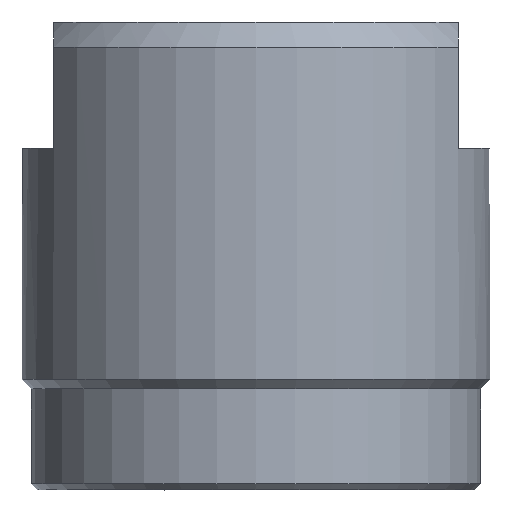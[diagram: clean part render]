
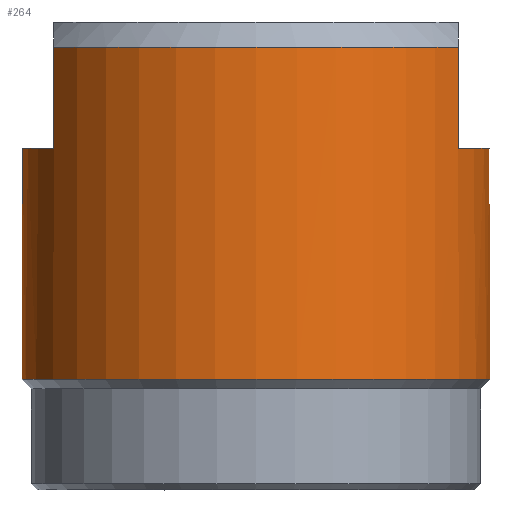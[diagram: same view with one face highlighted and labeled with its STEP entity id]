
A CAD part, left-side view. The second image highlights one B-rep face of the part: STEP entity #264.
In plain terms, the highlighted cylindrical face has radius 9.25 mm (diameter 18.5 mm), a full revolution.
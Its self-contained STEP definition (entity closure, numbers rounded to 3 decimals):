
#101 = CARTESIAN_POINT ( 'NONE',  ( 4.644, -8., 13.5 ) ) ;
#139 = CARTESIAN_POINT ( 'NONE',  ( -4.644, 8., 13.5 ) ) ;
#220 = CARTESIAN_POINT ( 'NONE',  ( -4.644, -8., 13.5 ) ) ;
#257 = CARTESIAN_POINT ( 'NONE',  ( -4.644, 8., 0. ) ) ;
#260 = DIRECTION ( 'NONE',  ( -1., 0., 0. ) ) ;
#264 = ADVANCED_FACE ( 'NONE', ( #321, #2046 ), #2009, .T. ) ;
#321 = FACE_OUTER_BOUND ( 'NONE', #2185, .T. ) ;
#394 = CARTESIAN_POINT ( 'NONE',  ( -4.644, -8., 17.5 ) ) ;
#400 = VERTEX_POINT ( 'NONE', #3163 ) ;
#416 = VERTEX_POINT ( 'NONE', #394 ) ;
#481 = EDGE_CURVE ( 'NONE', #416, #579, #1369, .T. ) ;
#493 = ORIENTED_EDGE ( 'NONE', *, *, #1754, .F. ) ;
#510 = DIRECTION ( 'NONE',  ( 0., 0., -1. ) ) ;
#526 = EDGE_CURVE ( 'NONE', #934, #416, #1989, .T. ) ;
#528 = DIRECTION ( 'NONE',  ( 0., 0., 1. ) ) ;
#579 = VERTEX_POINT ( 'NONE', #1005 ) ;
#592 = CARTESIAN_POINT ( 'NONE',  ( 4.644, 8., 13.5 ) ) ;
#638 = ORIENTED_EDGE ( 'NONE', *, *, #3423, .T. ) ;
#707 = LINE ( 'NONE', #1861, #949 ) ;
#777 = CARTESIAN_POINT ( 'NONE',  ( 4.644, 8., 0. ) ) ;
#830 = DIRECTION ( 'NONE',  ( 0., 0., 1. ) ) ;
#853 = EDGE_CURVE ( 'NONE', #2894, #1106, #707, .T. ) ;
#888 = AXIS2_PLACEMENT_3D ( 'NONE', #2332, #3124, #1749 ) ;
#900 = EDGE_CURVE ( 'NONE', #3211, #3211, #1595, .T. ) ;
#934 = VERTEX_POINT ( 'NONE', #220 ) ;
#949 = VECTOR ( 'NONE', #3502, 1000. ) ;
#965 = DIRECTION ( 'NONE',  ( 0., 0., -1. ) ) ;
#1005 = CARTESIAN_POINT ( 'NONE',  ( -4.644, 8., 17.5 ) ) ;
#1019 = VECTOR ( 'NONE', #2066, 1000. ) ;
#1106 = VERTEX_POINT ( 'NONE', #101 ) ;
#1138 = CIRCLE ( 'NONE', #3527, 9.25 ) ;
#1224 = VERTEX_POINT ( 'NONE', #592 ) ;
#1350 = CARTESIAN_POINT ( 'NONE',  ( -9.25, 0., 4.375 ) ) ;
#1369 = CIRCLE ( 'NONE', #2273, 9.25 ) ;
#1440 = DIRECTION ( 'NONE',  ( -1., 0., 0. ) ) ;
#1444 = VERTEX_POINT ( 'NONE', #139 ) ;
#1585 = CARTESIAN_POINT ( 'NONE',  ( 0., 0., 4.375 ) ) ;
#1595 = CIRCLE ( 'NONE', #1768, 9.25 ) ;
#1656 = AXIS2_PLACEMENT_3D ( 'NONE', #1965, #2253, #1760 ) ;
#1695 = CARTESIAN_POINT ( 'NONE',  ( 0., 0., 17.5 ) ) ;
#1749 = DIRECTION ( 'NONE',  ( -1., 0., 0. ) ) ;
#1754 = EDGE_CURVE ( 'NONE', #1224, #1444, #1828, .T. ) ;
#1760 = DIRECTION ( 'NONE',  ( -1., 0., 0. ) ) ;
#1768 = AXIS2_PLACEMENT_3D ( 'NONE', #1585, #1841, #3218 ) ;
#1776 = ORIENTED_EDGE ( 'NONE', *, *, #900, .F. ) ;
#1828 = CIRCLE ( 'NONE', #3277, 9.25 ) ;
#1832 = VECTOR ( 'NONE', #830, 1000. ) ;
#1841 = DIRECTION ( 'NONE',  ( 0., 0., -1. ) ) ;
#1861 = CARTESIAN_POINT ( 'NONE',  ( 4.644, -8., 0. ) ) ;
#1940 = VECTOR ( 'NONE', #510, 1000. ) ;
#1965 = CARTESIAN_POINT ( 'NONE',  ( 0., 0., 13.5 ) ) ;
#1971 = ORIENTED_EDGE ( 'NONE', *, *, #853, .T. ) ;
#1989 = LINE ( 'NONE', #2546, #1019 ) ;
#2009 = CYLINDRICAL_SURFACE ( 'NONE', #888, 9.25 ) ;
#2046 = FACE_OUTER_BOUND ( 'NONE', #2674, .T. ) ;
#2066 = DIRECTION ( 'NONE',  ( 0., 0., 1. ) ) ;
#2100 = EDGE_CURVE ( 'NONE', #934, #1106, #2765, .T. ) ;
#2185 = EDGE_LOOP ( 'NONE', ( #1776 ) ) ;
#2253 = DIRECTION ( 'NONE',  ( 0., 0., 1. ) ) ;
#2266 = CARTESIAN_POINT ( 'NONE',  ( 4.644, -8., 17.5 ) ) ;
#2273 = AXIS2_PLACEMENT_3D ( 'NONE', #3463, #965, #1440 ) ;
#2322 = ORIENTED_EDGE ( 'NONE', *, *, #2100, .F. ) ;
#2332 = CARTESIAN_POINT ( 'NONE',  ( 0., 0., 0. ) ) ;
#2418 = EDGE_CURVE ( 'NONE', #579, #1444, #3016, .T. ) ;
#2532 = DIRECTION ( 'NONE',  ( 0., 0., -1. ) ) ;
#2546 = CARTESIAN_POINT ( 'NONE',  ( -4.644, -8., 0. ) ) ;
#2610 = ORIENTED_EDGE ( 'NONE', *, *, #3121, .T. ) ;
#2674 = EDGE_LOOP ( 'NONE', ( #2322, #2799, #3170, #2949, #493, #638, #2610, #1971 ) ) ;
#2765 = CIRCLE ( 'NONE', #1656, 9.25 ) ;
#2794 = CARTESIAN_POINT ( 'NONE',  ( 0., 0., 13.5 ) ) ;
#2799 = ORIENTED_EDGE ( 'NONE', *, *, #526, .T. ) ;
#2871 = DIRECTION ( 'NONE',  ( -1., 0., 0. ) ) ;
#2894 = VERTEX_POINT ( 'NONE', #2266 ) ;
#2949 = ORIENTED_EDGE ( 'NONE', *, *, #2418, .T. ) ;
#3016 = LINE ( 'NONE', #257, #1940 ) ;
#3121 = EDGE_CURVE ( 'NONE', #400, #2894, #1138, .T. ) ;
#3124 = DIRECTION ( 'NONE',  ( 0., 0., -1. ) ) ;
#3163 = CARTESIAN_POINT ( 'NONE',  ( 4.644, 8., 17.5 ) ) ;
#3170 = ORIENTED_EDGE ( 'NONE', *, *, #481, .T. ) ;
#3211 = VERTEX_POINT ( 'NONE', #1350 ) ;
#3218 = DIRECTION ( 'NONE',  ( -1., 0., 0. ) ) ;
#3271 = LINE ( 'NONE', #777, #1832 ) ;
#3277 = AXIS2_PLACEMENT_3D ( 'NONE', #2794, #528, #260 ) ;
#3423 = EDGE_CURVE ( 'NONE', #1224, #400, #3271, .T. ) ;
#3463 = CARTESIAN_POINT ( 'NONE',  ( 0., 0., 17.5 ) ) ;
#3502 = DIRECTION ( 'NONE',  ( 0., 0., -1. ) ) ;
#3527 = AXIS2_PLACEMENT_3D ( 'NONE', #1695, #2532, #2871 ) ;
